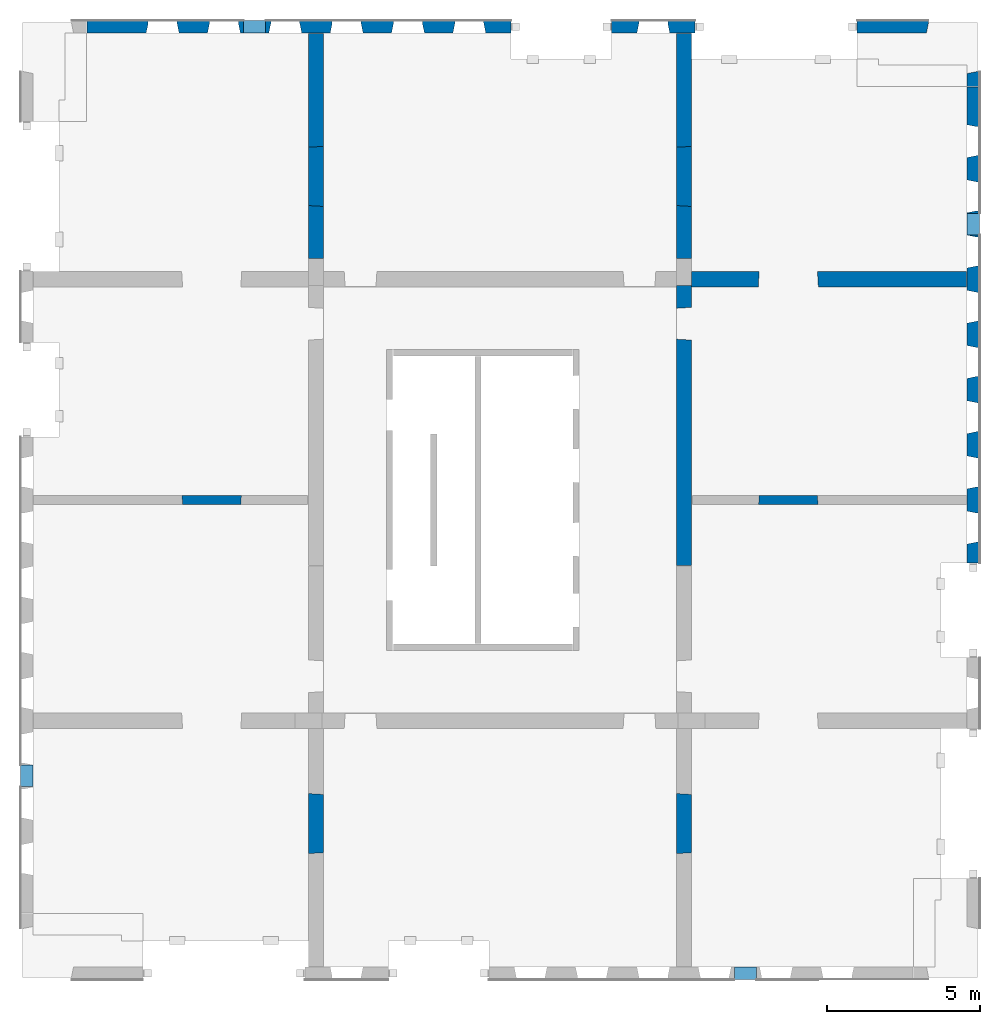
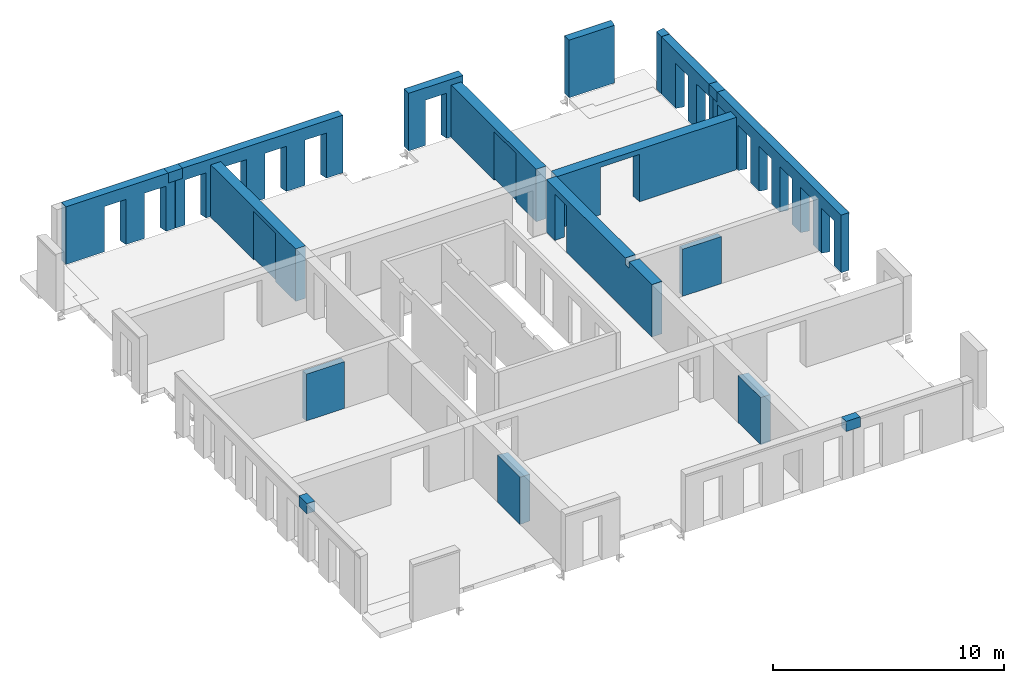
# One storey, part 4 of 5: 21 walls, 26 openings.
"""IFC2X3 building model written with IfcOpenShell, lengths in millimetres."""

from ifc_helpers import new_model, entity, si_unit, converted_unit, derived_unit, direction, frame, frame_2d, origin, place, context, subcontext, project, spatial, polyline, rectangle, extrude, clip, bounded_halfspace, faceted_brep, material, layer, layer_set, layer_usage, type_object, element, save


model = new_model("IFC2X3")

# Units and contexts
model_context = context("Model", 3, precision=0.01, world=origin(), true_north=direction((6.12303176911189e-17, 1.0)))
body_context = subcontext(model_context, "Body", "Model", "MODEL_VIEW")
ifc_project = project(units=[si_unit("LENGTHUNIT", "METRE", prefix="MILLI"), si_unit("AREAUNIT", "SQUARE_METRE"), si_unit("VOLUMEUNIT", "CUBIC_METRE"), converted_unit("PLANEANGLEUNIT", "DEGREE", entity("IfcRatioMeasure", 0.0174532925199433), si_unit("PLANEANGLEUNIT", "RADIAN"), dimensions=[0, 0, 0, 0, 0, 0, 0]), si_unit("MASSUNIT", "GRAM", prefix="KILO"), derived_unit("MASSDENSITYUNIT", [(si_unit("MASSUNIT", "GRAM", prefix="KILO"), 1), (si_unit("LENGTHUNIT", "METRE"), -3)]), si_unit("TIMEUNIT", "SECOND"), si_unit("FREQUENCYUNIT", "HERTZ"), si_unit("THERMODYNAMICTEMPERATUREUNIT", "DEGREE_CELSIUS"), derived_unit("THERMALTRANSMITTANCEUNIT", [(si_unit("MASSUNIT", "GRAM", prefix="KILO"), 1), (si_unit("THERMODYNAMICTEMPERATUREUNIT", "KELVIN"), -1), (si_unit("TIMEUNIT", "SECOND"), -3)]), derived_unit("VOLUMETRICFLOWRATEUNIT", [(si_unit("LENGTHUNIT", "METRE"), 3), (si_unit("TIMEUNIT", "SECOND"), -1)]), si_unit("ELECTRICCURRENTUNIT", "AMPERE"), si_unit("ELECTRICVOLTAGEUNIT", "VOLT"), si_unit("POWERUNIT", "WATT"), si_unit("FORCEUNIT", "NEWTON", prefix="KILO"), si_unit("ILLUMINANCEUNIT", "LUX"), si_unit("LUMINOUSFLUXUNIT", "LUMEN"), si_unit("LUMINOUSINTENSITYUNIT", "CANDELA"), derived_unit("USERDEFINED", [(si_unit("MASSUNIT", "GRAM", prefix="KILO"), -1), (si_unit("LENGTHUNIT", "METRE"), -2), (si_unit("TIMEUNIT", "SECOND"), 3), (si_unit("LUMINOUSFLUXUNIT", "LUMEN"), 1)]), derived_unit("LINEARVELOCITYUNIT", [(si_unit("LENGTHUNIT", "METRE"), 1), (si_unit("TIMEUNIT", "SECOND"), -1)]), si_unit("PRESSUREUNIT", "PASCAL"), derived_unit("USERDEFINED", [(si_unit("LENGTHUNIT", "METRE"), -2), (si_unit("MASSUNIT", "GRAM", prefix="KILO"), 1), (si_unit("TIMEUNIT", "SECOND"), -2)])], contexts=[model_context])

# Site, building, storey
site_placement = place(None, origin())
site = spatial("IfcSite", under=ifc_project, at=site_placement, Name="Default", CompositionType="ELEMENT")
building_placement = place(site_placement, origin())
building = spatial("IfcBuilding", under=site, at=building_placement, Name="niet gebruiken", CompositionType="ELEMENT")
storey_placement = place(building_placement, frame((0.0, 0.0, 24120.0)))
storey = spatial("IfcBuildingStorey", under=building, at=storey_placement, Name="07 zevende verdieping", CompositionType="ELEMENT", Elevation=24120.0)

# Wall, openings
ifc_material_1 = material(Name="NLRS_f2_beton prefab")
ifc_layer_1 = layer(ifc_material_1, 400.0)
ifc_layer_set_1 = layer_set([ifc_layer_1], Name="Basic Wall:NLRS_21.21_WA_beton prefab d=400/420_gen")
ifc_layer_usage_1 = layer_usage(ifc_layer_set_1, "AXIS2", "NEGATIVE", 200.0)
wall_type_1 = type_object("IfcWallType", Name="Basic Wall:NLRS_21.21_WA_beton prefab d=400/420_gen", PredefinedType="STANDARD", material=ifc_layer_set_1)
wall_1_placement = place(storey_placement, frame((128290.0, 32930.0, -50.0)))
wall_1 = element("IfcWallStandardCase", 1, at=wall_1_placement, inside=storey, type_object=wall_type_1, material=ifc_layer_usage_1, Name="Basic Wall:NLRS_21.21_WA_beton prefab d=400/420_gen", ObjectType="Basic Wall:NLRS_21.21_WA_beton prefab d=400/420_gen", context=body_context, shape_type="SweptSolid", body=[
    extrude(rectangle(XDim=5450.00000000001, YDim=399.999999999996, at=frame_2d((2725.0, 5.82645043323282e-13), x_axis=(-1.0, 0.0))), origin(), (0.0, 0.0, 1.0), 3040.0),
])
opening_1_placement = place(wall_1_placement, frame((3925.0, -200.0, -20.0)))
element("IfcOpeningElement", 2, at=opening_1_placement, cuts=wall_1, Name="Basic Wall:NLRS_21.21_WA_beton prefab d=400/420_gen", ObjectType="Opening", context=body_context, shape_type="Brep", body=[
    faceted_brep([(1070.0, 0.0, 2405.0), (0.0, 0.0, 2405.0), (0.0, 0.0, 0.0), (1070.0, 0.0, 0.0), (1005.0, 319.0, 2370.0), (65.0, 319.0, 2370.0), (65.0, 319.0, 0.0), (65.0, 400.0, 0.0), (1005.0, 400.0, 0.0), (1005.0, 319.0, 0.0), (1005.0, 400.0, 2370.0), (65.0, 400.0, 2370.0)], [[[0, 1, 2, 3]], [[1, 0, 4, 5]], [[2, 1, 5, 6]], [[3, 2, 6, 7, 8, 9]], [[0, 3, 9, 4]], [[10, 8, 7, 11]], [[10, 11, 5, 4]], [[11, 7, 6, 5]], [[8, 10, 4, 9]]]),
])
opening_2_placement = place(wall_1_placement, frame((1925.0, -200.0, -20.0)))
element("IfcOpeningElement", 3, at=opening_2_placement, cuts=wall_1, Name="Basic Wall:NLRS_21.21_WA_beton prefab d=400/420_gen", ObjectType="Opening", context=body_context, shape_type="Brep", body=[
    faceted_brep([(1070.0, 0.0, 2405.0), (0.0, 0.0, 2405.0), (0.0, 0.0, 0.0), (1070.0, 0.0, 0.0), (1005.0, 319.0, 2370.0), (65.0, 319.0, 2370.0), (65.0, 319.0, 0.0), (65.0, 400.0, 0.0), (1005.0, 400.0, 0.0), (1005.0, 319.0, 0.0), (1005.0, 400.0, 2370.0), (65.0, 400.0, 2370.0)], [[[0, 1, 2, 3]], [[1, 0, 4, 5]], [[2, 1, 5, 6]], [[3, 2, 6, 7, 8, 9]], [[0, 3, 9, 4]], [[10, 8, 7, 11]], [[10, 11, 5, 4]], [[11, 7, 6, 5]], [[8, 10, 4, 9]]]),
])
opening_3_placement = place(wall_1_placement, origin())
element("IfcOpeningElement", 4, at=opening_3_placement, cuts=wall_1, Name="Basic Wall:NLRS_21.21_WA_beton prefab d=400/420_gen", ObjectType="Opening", context=body_context, shape_type="SweptSolid", body=[
    extrude(rectangle(XDim=535.0, YDim=345.000000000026, at=frame_2d((0.0, 8.66862137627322e-12), x_axis=(1.0, 0.0))), frame((5277.5, 200.0, 2772.5), z_axis=(0.0, -1.0, 0.0), x_axis=(0.0, 0.0, 1.0)), (0.0, 0.0, 1.0), 400.0),
])

# Wall, opening
ifc_layer_usage_2 = layer_usage(ifc_layer_set_1, "AXIS2", "NEGATIVE", 200.0)
wall_2_placement = place(storey_placement, frame((153390.0, 32930.0, -50.0)))
wall_2 = element("IfcWallStandardCase", 5, at=wall_2_placement, inside=storey, type_object=wall_type_1, material=ifc_layer_usage_2, Name="Basic Wall:NLRS_21.21_WA_beton prefab d=400/420_gen", ObjectType="Basic Wall:NLRS_21.21_WA_beton prefab d=400/420_gen", context=body_context, shape_type="SweptSolid", body=[
    extrude(rectangle(XDim=2330.00000000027, YDim=400.000000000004, at=frame_2d((1165.00000000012, 7.38964445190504e-13), x_axis=(-1.0, 0.0))), origin(), (0.0, 0.0, 1.0), 3040.0),
])
opening_4_placement = place(wall_2_placement, frame((2265.0, -200.0, 0.0)))
element("IfcOpeningElement", 6, at=opening_4_placement, cuts=wall_2, Name="Basic Wall:NLRS_21.21_WA_beton prefab d=400/420_gen", ObjectType="Opening", context=body_context, shape_type="Brep", body=[
    faceted_brep([(65.0, 0.0, 3040.0), (65.0, 319.0, 3040.0), (0.0, 0.0, 3040.0), (65.0, 0.0, 0.0), (0.0, 0.0, 0.0), (65.0, 319.0, 0.0)], [[[0, 1, 2]], [[3, 4, 5]], [[2, 4, 3, 0]], [[0, 3, 5, 1]], [[1, 5, 4, 2]]]),
])

ifc_layer_usage_3 = layer_usage(ifc_layer_set_1, "AXIS2", "NEGATIVE", 200.0)
wall_3_placement = place(storey_placement, frame((157180.0, 31470.0, -50.0), z_axis=(0.0, 0.0, 1.0), x_axis=(0.0, -1.0, 0.0)))
wall_3 = element("IfcWallStandardCase", 7, at=wall_3_placement, inside=storey, type_object=wall_type_1, material=ifc_layer_usage_3, Name="Basic Wall:NLRS_21.21_WA_beton prefab d=400/420_gen", ObjectType="Basic Wall:NLRS_21.21_WA_beton prefab d=400/420_gen", context=body_context, shape_type="SweptSolid", body=[
    extrude(rectangle(XDim=490.000000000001, YDim=399.999999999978, at=frame_2d((245.000000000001, -7.21911419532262e-12), x_axis=(-1.0, 0.0))), origin(), (0.0, 0.0, 1.0), 3040.0),
])
opening_5_placement = place(wall_3_placement, frame((65.0, -200.0, 0.0)))
element("IfcOpeningElement", 8, at=opening_5_placement, cuts=wall_3, Name="Basic Wall:NLRS_21.21_WA_beton prefab d=400/420_gen", ObjectType="Opening", context=body_context, shape_type="Brep", body=[
    faceted_brep([(-65.0, 0.0, 3040.0), (0.0, 0.0, 3040.0), (-65.0, 319.0, 3040.0), (-65.0, 0.0, 0.0), (-65.0, 319.0, 0.0), (0.0, 0.0, 0.0)], [[[0, 1, 2]], [[3, 4, 5]], [[1, 0, 3, 5]], [[0, 2, 4, 3]], [[2, 1, 5, 4]]]),
])

ifc_layer_usage_4 = layer_usage(ifc_layer_set_1, "AXIS2", "NEGATIVE", 200.0)
wall_4_placement = place(storey_placement, frame((145390.0, 32930.0, -50.0)))
wall_4 = element("IfcWallStandardCase", 9, at=wall_4_placement, inside=storey, type_object=wall_type_1, material=ifc_layer_usage_4, Name="Basic Wall:NLRS_21.21_WA_beton prefab d=400/420_gen", ObjectType="Basic Wall:NLRS_21.21_WA_beton prefab d=400/420_gen", context=body_context, shape_type="SweptSolid", body=[
    extrude(rectangle(XDim=2720.00000000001, YDim=399.999999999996, at=frame_2d((1360.0, -4.54747350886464e-13), x_axis=(-1.0, 0.0))), origin(), (0.0, 0.0, 1.0), 3040.0),
])
opening_6_placement = place(wall_4_placement, frame((825.0, -200.0, -20.0)))
element("IfcOpeningElement", 10, at=opening_6_placement, cuts=wall_4, Name="Basic Wall:NLRS_21.21_WA_beton prefab d=400/420_gen", ObjectType="Opening", context=body_context, shape_type="Brep", body=[
    faceted_brep([(0.0, 0.0, 2405.0), (0.0, 0.0, 0.0), (1070.0, 0.0, 0.0), (1070.0, 0.0, 2405.0), (1005.0, 319.0, 2370.0), (65.0, 319.0, 2370.0), (1005.0, 319.0, 0.0), (65.0, 319.0, 0.0), (65.0, 400.0, 0.0), (1005.0, 400.0, 0.0), (65.0, 400.0, 2370.0), (1005.0, 400.0, 2370.0)], [[[0, 1, 2, 3]], [[3, 4, 5, 0]], [[2, 6, 4, 3]], [[1, 7, 8, 9, 6, 2]], [[0, 5, 7, 1]], [[10, 11, 9, 8]], [[10, 5, 4, 11]], [[11, 4, 6, 9]], [[8, 7, 5, 10]]]),
])

# Wall, openings
ifc_layer_usage_5 = layer_usage(ifc_layer_set_1, "AXIS2", "NEGATIVE", 200.0)
wall_5_placement = place(storey_placement, frame((133760.0, 32930.0, -50.0)))
wall_5 = element("IfcWallStandardCase", 11, at=wall_5_placement, inside=storey, type_object=wall_type_1, material=ifc_layer_usage_5, Name="Basic Wall:NLRS_21.21_WA_beton prefab d=400/420_gen", ObjectType="Basic Wall:NLRS_21.21_WA_beton prefab d=400/420_gen", context=body_context, shape_type="SweptSolid", body=[
    extrude(rectangle(XDim=8350.00000000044, YDim=399.999999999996, at=frame_2d((4175.00000000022, 1.406874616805e-12), x_axis=(-1.0, 0.0))), origin(), (0.0, 0.0, 1.0), 3040.0),
])
opening_7_placement = place(wall_5_placement, frame((6455.0, -200.0, -20.0)))
element("IfcOpeningElement", 12, at=opening_7_placement, cuts=wall_5, Name="Basic Wall:NLRS_21.21_WA_beton prefab d=400/420_gen", ObjectType="Opening", context=body_context, shape_type="Brep", body=[
    faceted_brep([(1070.0, 0.0, 2405.0), (0.0, 0.0, 2405.0), (0.0, 0.0, 0.0), (1070.0, 0.0, 0.0), (1005.0, 319.0, 2370.0), (65.0, 319.0, 2370.0), (65.0, 319.0, 0.0), (65.0, 400.0, 0.0), (1005.0, 400.0, 0.0), (1005.0, 319.0, 0.0), (1005.0, 400.0, 2370.0), (65.0, 400.0, 2370.0)], [[[0, 1, 2, 3]], [[1, 0, 4, 5]], [[2, 1, 5, 6]], [[3, 2, 6, 7, 8, 9]], [[0, 3, 9, 4]], [[10, 8, 7, 11]], [[10, 11, 5, 4]], [[11, 7, 6, 5]], [[8, 10, 4, 9]]]),
])
opening_8_placement = place(wall_5_placement, frame((4455.0, -200.0, -20.0)))
element("IfcOpeningElement", 13, at=opening_8_placement, cuts=wall_5, Name="Basic Wall:NLRS_21.21_WA_beton prefab d=400/420_gen", ObjectType="Opening", context=body_context, shape_type="Brep", body=[
    faceted_brep([(1070.0, 0.0, 2405.0), (0.0, 0.0, 2405.0), (0.0, 0.0, 0.0), (1070.0, 0.0, 0.0), (1005.0, 319.0, 2370.0), (65.0, 319.0, 2370.0), (65.0, 319.0, 0.0), (65.0, 400.0, 0.0), (1005.0, 400.0, 0.0), (1005.0, 319.0, 0.0), (1005.0, 400.0, 2370.0), (65.0, 400.0, 2370.0)], [[[0, 1, 2, 3]], [[1, 0, 4, 5]], [[2, 1, 5, 6]], [[3, 2, 6, 7, 8, 9]], [[0, 3, 9, 4]], [[10, 8, 7, 11]], [[10, 11, 5, 4]], [[11, 7, 6, 5]], [[8, 10, 4, 9]]]),
])
opening_9_placement = place(wall_5_placement, frame((455.0, -200.0, -20.0)))
element("IfcOpeningElement", 14, at=opening_9_placement, cuts=wall_5, Name="Basic Wall:NLRS_21.21_WA_beton prefab d=400/420_gen", ObjectType="Opening", context=body_context, shape_type="Brep", body=[
    faceted_brep([(1070.0, 0.0, 2405.0), (0.0, 0.0, 2405.0), (0.0, 0.0, 0.0), (1070.0, 0.0, 0.0), (1005.0, 319.0, 2370.0), (65.0, 319.0, 2370.0), (65.0, 319.0, 0.0), (65.0, 400.0, 0.0), (1005.0, 400.0, 0.0), (1005.0, 319.0, 0.0), (1005.0, 400.0, 2370.0), (65.0, 400.0, 2370.0)], [[[0, 1, 2, 3]], [[1, 0, 4, 5]], [[2, 1, 5, 6]], [[3, 2, 6, 7, 8, 9]], [[0, 3, 9, 4]], [[10, 8, 7, 11]], [[10, 11, 5, 4]], [[11, 7, 6, 5]], [[8, 10, 4, 9]]]),
])
opening_10_placement = place(wall_5_placement, frame((2455.0, -200.0, -20.0)))
element("IfcOpeningElement", 15, at=opening_10_placement, cuts=wall_5, Name="Basic Wall:NLRS_21.21_WA_beton prefab d=400/420_gen", ObjectType="Opening", context=body_context, shape_type="Brep", body=[
    faceted_brep([(1070.0, 0.0, 2405.0), (0.0, 0.0, 2405.0), (0.0, 0.0, 0.0), (1070.0, 0.0, 0.0), (1005.0, 319.0, 2370.0), (65.0, 319.0, 2370.0), (65.0, 319.0, 0.0), (65.0, 400.0, 0.0), (1005.0, 400.0, 0.0), (1005.0, 319.0, 0.0), (1005.0, 400.0, 2370.0), (65.0, 400.0, 2370.0)], [[[0, 1, 2, 3]], [[1, 0, 4, 5]], [[2, 1, 5, 6]], [[3, 2, 6, 7, 8, 9]], [[0, 3, 9, 4]], [[10, 8, 7, 11]], [[10, 11, 5, 4]], [[11, 7, 6, 5]], [[8, 10, 4, 9]]]),
])
opening_11_placement = place(wall_5_placement, origin())
element("IfcOpeningElement", 16, at=opening_11_placement, cuts=wall_5, Name="Basic Wall:NLRS_21.21_WA_beton prefab d=400/420_gen", ObjectType="Opening", context=body_context, shape_type="SweptSolid", body=[
    extrude(rectangle(XDim=535.0, YDim=344.999999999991, at=frame_2d((8.65441052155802e-12, 0.0), x_axis=(0.0, 1.0))), frame((172.499999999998, 200.0, 2772.5), z_axis=(0.0, -1.0, 0.0), x_axis=(-1.0, 0.0, 0.0)), (0.0, 0.0, 1.0), 400.0),
])

ifc_layer_usage_6 = layer_usage(ifc_layer_set_1, "AXIS2", "NEGATIVE", 200.0)
wall_6_placement = place(storey_placement, frame((157180.0, 30960.0, -50.0), z_axis=(0.0, 0.0, 1.0), x_axis=(0.0, -1.0, 0.0)))
wall_6 = element("IfcWallStandardCase", 17, at=wall_6_placement, inside=storey, type_object=wall_type_1, material=ifc_layer_usage_6, Name="Basic Wall:NLRS_21.21_WA_beton prefab d=400/420_gen", ObjectType="Basic Wall:NLRS_21.21_WA_beton prefab d=400/420_gen", context=body_context, shape_type="SweptSolid", body=[
    extrude(rectangle(XDim=4460.00000000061, YDim=399.999999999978, at=frame_2d((2230.00000000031, -2.44426701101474e-12), x_axis=(-1.0, 0.0))), origin(), (0.0, 0.0, 1.0), 3040.0),
])
opening_12_placement = place(wall_6_placement, frame((2295.0, -200.0, -20.0)))
element("IfcOpeningElement", 18, at=opening_12_placement, cuts=wall_6, Name="Basic Wall:NLRS_21.21_WA_beton prefab d=400/420_gen", ObjectType="Opening", context=body_context, shape_type="Brep", body=[
    faceted_brep([(-1070.0, 0.0, 2405.0), (-1070.0, 0.0, 0.0), (0.0, 0.0, 0.0), (0.0, 0.0, 2405.0), (-65.0, 319.0, 2370.0), (-1005.0, 319.0, 2370.0), (-65.0, 319.0, 0.0), (-1005.0, 319.0, 0.0), (-1005.0, 400.0, 0.0), (-65.0, 400.0, 0.0), (-1005.0, 400.0, 2370.0), (-65.0, 400.0, 2370.0)], [[[0, 1, 2, 3]], [[3, 4, 5, 0]], [[2, 6, 4, 3]], [[1, 7, 8, 9, 6, 2]], [[0, 5, 7, 1]], [[10, 11, 9, 8]], [[10, 5, 4, 11]], [[11, 4, 6, 9]], [[8, 7, 5, 10]]]),
])
opening_13_placement = place(wall_6_placement, frame((4095.0, -200.0, -20.0)))
element("IfcOpeningElement", 19, at=opening_13_placement, cuts=wall_6, Name="Basic Wall:NLRS_21.21_WA_beton prefab d=400/420_gen", ObjectType="Opening", context=body_context, shape_type="Brep", body=[
    faceted_brep([(-1070.0, 0.0, 2405.0), (-1070.0, 0.0, 0.0), (0.0, 0.0, 0.0), (0.0, 0.0, 2405.0), (-65.0, 319.0, 2370.0), (-1005.0, 319.0, 2370.0), (-65.0, 319.0, 0.0), (-1005.0, 319.0, 0.0), (-1005.0, 400.0, 0.0), (-65.0, 400.0, 0.0), (-1005.0, 400.0, 2370.0), (-65.0, 400.0, 2370.0)], [[[0, 1, 2, 3]], [[3, 4, 5, 0]], [[2, 6, 4, 3]], [[1, 7, 8, 9, 6, 2]], [[0, 5, 7, 1]], [[10, 11, 9, 8]], [[10, 5, 4, 11]], [[11, 4, 6, 9]], [[8, 7, 5, 10]]]),
])
opening_14_placement = place(wall_6_placement, origin())
element("IfcOpeningElement", 20, at=opening_14_placement, cuts=wall_6, Name="Basic Wall:NLRS_21.21_WA_beton prefab d=400/420_gen", ObjectType="Opening", context=body_context, shape_type="SweptSolid", body=[
    extrude(rectangle(XDim=535.0, YDim=345.00000000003, at=frame_2d((0.0, -2.1600499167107e-12), x_axis=(1.0, 0.0))), frame((4287.5000000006, 200.0, 2772.5), z_axis=(0.0, -1.0, 0.0), x_axis=(0.0, 0.0, 1.0)), (0.0, 0.0, 1.0), 400.0),
])

ifc_layer_usage_7 = layer_usage(ifc_layer_set_1, "AXIS2", "NEGATIVE", 200.0)
wall_7_placement = place(storey_placement, frame((157180.0, 26490.0, -50.0), z_axis=(0.0, 0.0, 1.0), x_axis=(0.0, -1.0, 0.0)))
wall_7 = element("IfcWallStandardCase", 21, at=wall_7_placement, inside=storey, type_object=wall_type_1, material=ifc_layer_usage_7, Name="Basic Wall:NLRS_21.21_WA_beton prefab d=400/420_gen", ObjectType="Basic Wall:NLRS_21.21_WA_beton prefab d=400/420_gen", context=body_context, shape_type="SweptSolid", body=[
    extrude(rectangle(XDim=11050.0000000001, YDim=399.999999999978, at=frame_2d((5525.00000000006, 6.73594513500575e-12), x_axis=(-1.0, 0.0))), origin(), (0.0, 0.0, 1.0), 3040.0),
])
opening_15_placement = place(wall_7_placement, frame((10425.0, -200.0, -20.0)))
element("IfcOpeningElement", 22, at=opening_15_placement, cuts=wall_7, Name="Basic Wall:NLRS_21.21_WA_beton prefab d=400/420_gen", ObjectType="Opening", context=body_context, shape_type="Brep", body=[
    faceted_brep([(-1070.0, 0.0, 2405.0), (-1070.0, 0.0, 0.0), (0.0, 0.0, 0.0), (0.0, 0.0, 2405.0), (-65.0, 319.0, 2370.0), (-1005.0, 319.0, 2370.0), (-65.0, 319.0, 0.0), (-1005.0, 319.0, 0.0), (-1005.0, 400.0, 0.0), (-65.0, 400.0, 0.0), (-1005.0, 400.0, 2370.0), (-65.0, 400.0, 2370.0)], [[[0, 1, 2, 3]], [[3, 4, 5, 0]], [[2, 6, 4, 3]], [[1, 7, 8, 9, 6, 2]], [[0, 5, 7, 1]], [[10, 11, 9, 8]], [[10, 5, 4, 11]], [[11, 4, 6, 9]], [[8, 7, 5, 10]]]),
])
opening_16_placement = place(wall_7_placement, frame((6825.0, -200.0, -20.0)))
element("IfcOpeningElement", 23, at=opening_16_placement, cuts=wall_7, Name="Basic Wall:NLRS_21.21_WA_beton prefab d=400/420_gen", ObjectType="Opening", context=body_context, shape_type="Brep", body=[
    faceted_brep([(-1070.0, 0.0, 2405.0), (-1070.0, 0.0, 0.0), (0.0, 0.0, 0.0), (0.0, 0.0, 2405.0), (-65.0, 319.0, 2370.0), (-1005.0, 319.0, 2370.0), (-65.0, 319.0, 0.0), (-1005.0, 319.0, 0.0), (-1005.0, 400.0, 0.0), (-65.0, 400.0, 0.0), (-1005.0, 400.0, 2370.0), (-65.0, 400.0, 2370.0)], [[[0, 1, 2, 3]], [[3, 4, 5, 0]], [[2, 6, 4, 3]], [[1, 7, 8, 9, 6, 2]], [[0, 5, 7, 1]], [[10, 11, 9, 8]], [[10, 5, 4, 11]], [[11, 4, 6, 9]], [[8, 7, 5, 10]]]),
])
opening_17_placement = place(wall_7_placement, frame((5025.0, -200.0, -20.0)))
element("IfcOpeningElement", 24, at=opening_17_placement, cuts=wall_7, Name="Basic Wall:NLRS_21.21_WA_beton prefab d=400/420_gen", ObjectType="Opening", context=body_context, shape_type="Brep", body=[
    faceted_brep([(-1070.0, 0.0, 2405.0), (-1070.0, 0.0, 0.0), (0.0, 0.0, 0.0), (0.0, 0.0, 2405.0), (-65.0, 319.0, 2370.0), (-1005.0, 319.0, 2370.0), (-65.0, 319.0, 0.0), (-1005.0, 319.0, 0.0), (-1005.0, 400.0, 0.0), (-65.0, 400.0, 0.0), (-1005.0, 400.0, 2370.0), (-65.0, 400.0, 2370.0)], [[[0, 1, 2, 3]], [[3, 4, 5, 0]], [[2, 6, 4, 3]], [[1, 7, 8, 9, 6, 2]], [[0, 5, 7, 1]], [[10, 11, 9, 8]], [[10, 5, 4, 11]], [[11, 4, 6, 9]], [[8, 7, 5, 10]]]),
])
opening_18_placement = place(wall_7_placement, frame((8625.0, -200.0, -20.0)))
element("IfcOpeningElement", 25, at=opening_18_placement, cuts=wall_7, Name="Basic Wall:NLRS_21.21_WA_beton prefab d=400/420_gen", ObjectType="Opening", context=body_context, shape_type="Brep", body=[
    faceted_brep([(-1070.0, 0.0, 2405.0), (-1070.0, 0.0, 0.0), (0.0, 0.0, 0.0), (0.0, 0.0, 2405.0), (-65.0, 319.0, 2370.0), (-1005.0, 319.0, 2370.0), (-65.0, 319.0, 0.0), (-1005.0, 319.0, 0.0), (-1005.0, 400.0, 0.0), (-65.0, 400.0, 0.0), (-1005.0, 400.0, 2370.0), (-65.0, 400.0, 2370.0)], [[[0, 1, 2, 3]], [[3, 4, 5, 0]], [[2, 6, 4, 3]], [[1, 7, 8, 9, 6, 2]], [[0, 5, 7, 1]], [[10, 11, 9, 8]], [[10, 5, 4, 11]], [[11, 4, 6, 9]], [[8, 7, 5, 10]]]),
])
opening_19_placement = place(wall_7_placement, frame((3225.0, -200.0, -20.0)))
element("IfcOpeningElement", 26, at=opening_19_placement, cuts=wall_7, Name="Basic Wall:NLRS_21.21_WA_beton prefab d=400/420_gen", ObjectType="Opening", context=body_context, shape_type="Brep", body=[
    faceted_brep([(0.0, 0.0, 2405.0), (-1070.0, 0.0, 2405.0), (-1070.0, 0.0, 0.0), (0.0, 0.0, 0.0), (-65.0, 319.0, 2370.0), (-1005.0, 319.0, 2370.0), (-1005.0, 319.0, 0.0), (-1005.0, 400.0, 0.0), (-65.0, 400.0, 0.0), (-65.0, 319.0, 0.0), (-65.0, 400.0, 2370.0), (-1005.0, 400.0, 2370.0)], [[[0, 1, 2, 3]], [[1, 0, 4, 5]], [[2, 1, 5, 6]], [[3, 2, 6, 7, 8, 9]], [[0, 3, 9, 4]], [[10, 8, 7, 11]], [[10, 11, 5, 4]], [[11, 7, 6, 5]], [[8, 10, 4, 9]]]),
])
opening_20_placement = place(wall_7_placement, frame((1425.0, -200.0, -20.0)))
element("IfcOpeningElement", 27, at=opening_20_placement, cuts=wall_7, Name="Basic Wall:NLRS_21.21_WA_beton prefab d=400/420_gen", ObjectType="Opening", context=body_context, shape_type="Brep", body=[
    faceted_brep([(0.0, 0.0, 2405.0), (-1070.0, 0.0, 2405.0), (-1070.0, 0.0, 0.0), (0.0, 0.0, 0.0), (-65.0, 319.0, 2370.0), (-1005.0, 319.0, 2370.0), (-1005.0, 319.0, 0.0), (-1005.0, 400.0, 0.0), (-65.0, 400.0, 0.0), (-65.0, 319.0, 0.0), (-65.0, 400.0, 2370.0), (-1005.0, 400.0, 2370.0)], [[[0, 1, 2, 3]], [[1, 0, 4, 5]], [[2, 1, 5, 6]], [[3, 2, 6, 7, 8, 9]], [[0, 3, 9, 4]], [[10, 8, 7, 11]], [[10, 11, 5, 4]], [[11, 7, 6, 5]], [[8, 10, 4, 9]]]),
])
opening_21_placement = place(wall_7_placement, origin())
element("IfcOpeningElement", 28, at=opening_21_placement, cuts=wall_7, Name="Basic Wall:NLRS_21.21_WA_beton prefab d=400/420_gen", ObjectType="Opening", context=body_context, shape_type="SweptSolid", body=[
    extrude(rectangle(XDim=535.0, YDim=344.999999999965, at=frame_2d((0.0, 0.0), x_axis=(0.0, 1.0))), frame((172.499999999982, 200.0, 2772.5), z_axis=(0.0, -1.0, 0.0), x_axis=(-1.0, 0.0, 0.0)), (0.0, 0.0, 1.0), 400.0),
])

# Wall, opening
ifc_layer_2 = layer(ifc_material_1, 500.0)
ifc_layer_set_2 = layer_set([ifc_layer_2], Name="Basic Wall:NLRS_22.21_WA_beton prefab d=500_gen")
ifc_layer_usage_8 = layer_usage(ifc_layer_set_2, "AXIS2", "NEGATIVE", 250.0)
wall_type_2 = type_object("IfcWallType", Name="Basic Wall:NLRS_22.21_WA_beton prefab d=500_gen", PredefinedType="STANDARD", material=ifc_layer_set_2)
wall_8_placement = place(storey_placement, frame((156960.0, 24700.0, -70.0), z_axis=(0.0, 0.0, 1.0), x_axis=(-1.0, 0.0, 0.0)))
wall_8 = element("IfcWallStandardCase", 29, at=wall_8_placement, inside=storey, type_object=wall_type_2, material=ifc_layer_usage_8, Name="Basic Wall:NLRS_22.21_WA_beton prefab d=500_gen", ObjectType="Basic Wall:NLRS_22.21_WA_beton prefab d=500_gen", context=body_context, shape_type="SweptSolid", body=[
    extrude(rectangle(XDim=8959.99999999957, YDim=499.999999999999, at=frame_2d((4479.99999999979, -1.27897692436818e-12), x_axis=(-1.0, 0.0))), origin(), (0.0, 0.0, 1.0), 2770.0),
])
opening_22_placement = place(wall_8_placement, frame((6790.0, 250.0, 0.0)))
element("IfcOpeningElement", 30, at=opening_22_placement, cuts=wall_8, Name="Basic Wall:NLRS_22.21_WA_beton prefab d=500_gen", ObjectType="Opening", context=body_context, shape_type="Brep", body=[
    faceted_brep([(-30.0, -500.0, 2470.0), (-1930.0, -500.0, 2470.0), (-1930.0, -500.0, 0.0), (-30.0, -500.0, 0.0), (0.0, 0.0, 2500.0), (0.0, 0.0, 0.0), (-1960.0, 0.0, 0.0), (-1960.0, 0.0, 2500.0)], [[[0, 1, 2, 3]], [[4, 5, 6, 7]], [[4, 7, 1, 0]], [[7, 6, 2, 1]], [[6, 5, 3, 2]], [[5, 4, 0, 3]]]),
])

ifc_layer_usage_9 = layer_usage(ifc_layer_set_2, "AXIS2", "NEGATIVE", 250.0)
wall_9_placement = place(storey_placement, frame((135750.0, 25380.0, -70.0), z_axis=(0.0, 0.0, 1.0), x_axis=(0.0, 1.0, 0.0)))
wall_9 = element("IfcWallStandardCase", 31, at=wall_9_placement, inside=storey, type_object=wall_type_2, material=ifc_layer_usage_9, Name="Basic Wall:NLRS_22.21_WA_beton prefab d=500_gen", ObjectType="Basic Wall:NLRS_22.21_WA_beton prefab d=500_gen", context=body_context, shape_type="Clipping", body=[
    clip(extrude(rectangle(XDim=7329.99999999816, YDim=499.99999999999, at=frame_2d((3664.99999999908, -3.83693077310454e-12), x_axis=(-1.0, 0.0))), origin(), (0.0, 0.0, 1.0), 2770.0), bounded_halfspace(frame((1690.0, -250.0, 2590.0), z_axis=(0.0, 0.0598922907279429, 0.998204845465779), x_axis=(-1.0, 0.0, 0.0)), True, frame((1690.0, -250.0, 2590.0), z_axis=(0.0, 0.0598922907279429, 0.998204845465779), x_axis=(-1.0, 0.0, 0.0)), polyline([(0.0, 0.0), (-1960.0, 0.0), (-1930.0, -500.899191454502), (-30.0, -500.899191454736), (0.0, 0.0)]))),
])
opening_23_placement = place(wall_9_placement, frame((1690.0, 250.0, 0.0)))
element("IfcOpeningElement", 32, at=opening_23_placement, cuts=wall_9, Name="Basic Wall:NLRS_22.21_WA_beton prefab d=500_gen", ObjectType="Opening", context=body_context, shape_type="Brep", body=[
    faceted_brep([(1930.0, 0.0, 2470.0), (1930.0, 0.0, 0.0), (30.0, 0.0, 0.0), (30.0, 0.0, 2470.0), (1960.0, -500.0, 2500.0), (0.0, -500.0, 2500.0), (0.0, -500.0, 0.0), (1960.0, -500.0, 0.0)], [[[0, 1, 2, 3]], [[4, 5, 6, 7]], [[4, 0, 3, 5]], [[5, 3, 2, 6]], [[6, 2, 1, 7]], [[7, 1, 0, 4]]]),
])

ifc_layer_usage_10 = layer_usage(ifc_layer_set_2, "AXIS2", "NEGATIVE", 250.0)
wall_10_placement = place(storey_placement, frame((147750.0, 25380.0, -70.0), z_axis=(0.0, 0.0, 1.0), x_axis=(0.0, 1.0, 0.0)))
wall_10 = element("IfcWallStandardCase", 33, at=wall_10_placement, inside=storey, type_object=wall_type_2, material=ifc_layer_usage_10, Name="Basic Wall:NLRS_22.21_WA_beton prefab d=500_gen", ObjectType="Basic Wall:NLRS_22.21_WA_beton prefab d=500_gen", context=body_context, shape_type="Clipping", body=[
    clip(extrude(rectangle(XDim=7329.999999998, YDim=499.99999999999, at=frame_2d((3664.999999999, 1.10844666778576e-12), x_axis=(-1.0, 0.0))), origin(), (0.0, 0.0, 1.0), 2770.0), bounded_halfspace(frame((1690.0, -250.0, 2590.0), z_axis=(0.0, 0.0598922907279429, 0.998204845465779), x_axis=(-1.0, 0.0, 0.0)), True, frame((1690.0, -250.0, 2590.0), z_axis=(0.0, 0.0598922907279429, 0.998204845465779), x_axis=(-1.0, 0.0, 0.0)), polyline([(0.0, 0.0), (-1960.0, 0.0), (-1930.0, -500.89919145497), (-30.0, -500.899191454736), (0.0, 0.0)]))),
])
opening_24_placement = place(wall_10_placement, frame((1690.0, 250.0, 0.0)))
element("IfcOpeningElement", 34, at=opening_24_placement, cuts=wall_10, Name="Basic Wall:NLRS_22.21_WA_beton prefab d=500_gen", ObjectType="Opening", context=body_context, shape_type="Brep", body=[
    faceted_brep([(1930.0, 0.0, 2470.0), (1930.0, 0.0, 0.0), (30.0, 0.0, 0.0), (30.0, 0.0, 2470.0), (1960.0, -500.0, 2500.0), (0.0, -500.0, 2500.0), (0.0, -500.0, 0.0), (1960.0, -500.0, 0.0)], [[[0, 1, 2, 3]], [[4, 5, 6, 7]], [[4, 0, 3, 5]], [[5, 3, 2, 6]], [[6, 2, 1, 7]], [[7, 1, 0, 4]]]),
])

# Wall, openings
ifc_layer_usage_11 = layer_usage(ifc_layer_set_2, "AXIS2", "NEGATIVE", 250.0)
wall_11_placement = place(storey_placement, frame((147750.0, 24500.0, -70.0), z_axis=(0.0, 0.0, 1.0), x_axis=(0.0, -1.0, 0.0)))
wall_11 = element("IfcWallStandardCase", 35, at=wall_11_placement, inside=storey, type_object=wall_type_2, material=ifc_layer_usage_11, Name="Basic Wall:NLRS_22.21_WA_beton prefab d=500_gen", ObjectType="Basic Wall:NLRS_22.21_WA_beton prefab d=500_gen", context=body_context, shape_type="SweptSolid", body=[
    extrude(rectangle(XDim=9140.00000000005, YDim=499.99999999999, at=frame_2d((4570.00000000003, -1.4210854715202e-14), x_axis=(-1.0, 0.0))), origin(), (0.0, 0.0, 1.0), 2770.00000000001),
])
opening_25_placement = place(wall_11_placement, frame((1786.0, -250.0, 0.0)))
element("IfcOpeningElement", 36, at=opening_25_placement, cuts=wall_11, Name="Basic Wall:NLRS_22.21_WA_beton prefab d=500_gen", ObjectType="Opening", context=body_context, shape_type="Brep", body=[
    faceted_brep([(-1066.0, 500.0, 2478.0), (-1066.0, 500.0, 0.0), (-1036.0, 0.0, 0.0), (-1036.0, 0.0, 2448.0), (0.0, 500.0, 0.0), (-30.0, 0.0, 0.0), (-30.0, 0.0, 2448.0), (0.0, 500.0, 2478.0)], [[[0, 1, 2, 3]], [[1, 4, 5, 2]], [[6, 3, 2, 5]], [[7, 4, 1, 0]], [[7, 0, 3, 6]], [[4, 7, 6, 5]]]),
])
opening_26_placement = place(wall_11_placement, origin())
element("IfcOpeningElement", 37, at=opening_26_placement, cuts=wall_11, Name="Basic Wall:NLRS_22.21_WA_beton prefab d=500_gen", ObjectType="Opening", context=body_context, shape_type="SweptSolid", body=[
    extrude(rectangle(XDim=350.000000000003, YDim=339.999999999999, at=frame_2d((-1.08002495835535e-12, -2.1600499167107e-12), x_axis=(0.0, 1.0))), frame((7000.0, 250.0, 2595.0), z_axis=(0.0, -1.0, 0.0), x_axis=(-1.0, 0.0, 0.0)), (0.0, 0.0, 1.0), 500.0),
])

# Walls
ifc_material_2 = material(Name="NLRS_f2_beton prefab dichtstorten")
wall_type_3 = type_object("IfcWallType", Name="Parametric Wall:NLRS_22.21_WA_beton prefab d=500 1900x2470_gen", PredefinedType="NOTDEFINED", material=ifc_material_2)
wall_12_placement = place(storey_placement, frame((135500.0, 5970.0, -70.0), z_axis=(0.0, 0.0, 1.0), x_axis=(0.0, 1.0, 0.0)))
element("IfcWall", 38, at=wall_12_placement, inside=storey, type_object=wall_type_3, material=ifc_material_2, Name="Parametric Wall:NLRS_22.21_WA_beton prefab d=500 1900x2470_gen", ObjectType="Parametric Wall:NLRS_22.21_WA_beton prefab d=500 1900x2470_gen", context=body_context, shape_type="Brep", body=[
    faceted_brep([(1960.0, 0.0, 2500.0), (1960.0, 0.0, 0.0), (0.0, 0.0, 0.0), (0.0, 0.0, 2500.0), (1930.0, -500.0, 2470.0), (30.0, -500.0, 2470.0), (30.0, -500.0, 0.0), (1930.0, -500.0, 0.0)], [[[0, 1, 2, 3]], [[4, 5, 6, 7]], [[4, 7, 1, 0]], [[7, 6, 2, 1]], [[6, 5, 3, 2]], [[5, 4, 0, 3]]]),
])
for number, where, z_axis, x_axis in (
    (39, (147500.0, 27070.0, 20.0), (0.0, 0.0, 1.0), (0.0, 1.0, 0.0)),
    (40, (135500.0, 27070.0, 20.0), (0.0, 0.0, 1.0), (0.0, 1.0, 0.0)),
):
    element("IfcWall", number, at=place(storey_placement, frame(where, z_axis=z_axis, x_axis=x_axis)), inside=storey, type_object=wall_type_3, material=ifc_material_2, Name="Parametric Wall:NLRS_22.21_WA_beton prefab d=500 1900x2470_gen", ObjectType="Parametric Wall:NLRS_22.21_WA_beton prefab d=500 1900x2470_gen", context=body_context, shape_type="Brep", body=[
        faceted_brep([(0.0, -500.0, 2500.0), (0.0, -500.0, 0.0), (1960.0, -500.0, 0.0), (1960.0, -500.0, 2500.0), (30.0, 0.0, 2470.0), (1930.0, 0.0, 2470.0), (1930.0, 0.0, 0.0), (30.0, 0.0, 0.0)], [[[0, 1, 2, 3]], [[4, 5, 6, 7]], [[4, 7, 1, 0]], [[7, 6, 2, 1]], [[6, 5, 3, 2]], [[5, 4, 0, 3]]]),
    ])
wall_13_placement = place(storey_placement, frame((147500.0, 5970.0, -70.0), z_axis=(0.0, 0.0, 1.0), x_axis=(0.0, 1.0, 0.0)))
element("IfcWall", 41, at=wall_13_placement, inside=storey, type_object=wall_type_3, material=ifc_material_2, Name="Parametric Wall:NLRS_22.21_WA_beton prefab d=500 1900x2470_gen", ObjectType="Parametric Wall:NLRS_22.21_WA_beton prefab d=500 1900x2470_gen", context=body_context, shape_type="Brep", body=[
    faceted_brep([(1960.0, 0.0, 2500.0), (1960.0, 0.0, 0.0), (0.0, 0.0, 0.0), (0.0, 0.0, 2500.0), (1930.0, -500.0, 2470.0), (30.0, -500.0, 2470.0), (30.0, -500.0, 0.0), (1930.0, -500.0, 0.0)], [[[0, 1, 2, 3]], [[4, 5, 6, 7]], [[4, 7, 1, 0]], [[7, 6, 2, 1]], [[6, 5, 3, 2]], [[5, 4, 0, 3]]]),
])
wall_14_placement = place(storey_placement, frame((131382.0, 17350.0, -70.0)))
element("IfcWall", 42, at=wall_14_placement, inside=storey, type_object=wall_type_3, material=ifc_material_2, Name="Parametric Wall:NLRS_22.21_WA_beton prefab d=500 1900x2470_gen", ObjectType="Parametric Wall:NLRS_22.21_WA_beton prefab d=500 1900x2470_gen", context=body_context, shape_type="Brep", body=[
    faceted_brep([(1936.0, 300.0, 2488.0), (1936.0, 300.0, 0.0), (0.0, 300.0, 0.0), (0.0, 300.0, 2488.0), (1918.0, 0.0, 2470.0), (18.0, 0.0, 2470.0), (18.0, 0.0, 0.0), (1918.0, 0.0, 0.0)], [[[0, 1, 2, 3]], [[4, 5, 6, 7]], [[4, 7, 1, 0]], [[7, 6, 2, 1]], [[6, 5, 3, 2]], [[5, 4, 0, 3]]]),
])
wall_15_placement = place(storey_placement, frame((150182.0, 17350.0, -70.0)))
element("IfcWall", 43, at=wall_15_placement, inside=storey, type_object=wall_type_3, material=ifc_material_2, Name="Parametric Wall:NLRS_22.21_WA_beton prefab d=500 1900x2470_gen", ObjectType="Parametric Wall:NLRS_22.21_WA_beton prefab d=500 1900x2470_gen", context=body_context, shape_type="Brep", body=[
    faceted_brep([(0.0, 0.0, 2488.0), (0.0, 0.0, 0.0), (1936.0, 0.0, 0.0), (1936.0, 0.0, 2488.0), (18.0, 300.0, 2470.0), (1918.0, 300.0, 2470.0), (1918.0, 300.0, 0.0), (18.0, 300.0, 0.0)], [[[0, 1, 2, 3]], [[4, 5, 6, 7]], [[4, 7, 1, 0]], [[7, 6, 2, 1]], [[6, 5, 3, 2]], [[5, 4, 0, 3]]]),
])
ifc_material_3 = material(Name="NLRS_f2_beton ihwg")
ifc_layer_3 = layer(ifc_material_3, 400.0)
ifc_layer_set_3 = layer_set([ifc_layer_3], Name="Basic Wall:NLRS_21.21_WA_beton ihwg d=400_gen")
ifc_layer_usage_12 = layer_usage(ifc_layer_set_3, "AXIS2", "NEGATIVE", 200.0)
wall_type_4 = type_object("IfcWallType", Name="Basic Wall:NLRS_21.21_WA_beton ihwg d=400_gen", PredefinedType="STANDARD", material=ifc_layer_set_3)
wall_16_placement = place(storey_placement, frame((133395.0, 32930.0, 2455.0)))
element("IfcWallStandardCase", 44, at=wall_16_placement, inside=storey, type_object=wall_type_4, material=ifc_layer_usage_12, Name="Basic Wall:NLRS_21.21_WA_beton ihwg d=400_gen", ObjectType="Basic Wall:NLRS_21.21_WA_beton ihwg d=400_gen", context=body_context, shape_type="SweptSolid", body=[
    extrude(rectangle(XDim=710.000000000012, YDim=399.999999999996, at=frame_2d((355.000000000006, 0.0), x_axis=(-1.0, 0.0))), origin(), (0.0, 0.0, 1.0), 535.0),
])
ifc_layer_usage_13 = layer_usage(ifc_layer_set_3, "AXIS2", "NEGATIVE", 200.0)
wall_17_placement = place(storey_placement, frame((150105.0, 2070.0, 2455.0), z_axis=(0.0, 0.0, 1.0), x_axis=(-1.0, 0.0, 0.0)))
element("IfcWallStandardCase", 45, at=wall_17_placement, inside=storey, type_object=wall_type_4, material=ifc_layer_usage_13, Name="Basic Wall:NLRS_21.21_WA_beton ihwg d=400_gen", ObjectType="Basic Wall:NLRS_21.21_WA_beton ihwg d=400_gen", context=body_context, shape_type="SweptSolid", body=[
    extrude(rectangle(XDim=710.000000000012, YDim=400.0, at=frame_2d((355.000000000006, -2.8421709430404e-14), x_axis=(-1.0, 0.0))), origin(), (0.0, 0.0, 1.0), 535.0),
])
ifc_layer_usage_14 = layer_usage(ifc_layer_set_3, "AXIS2", "NEGATIVE", 200.0)
wall_18_placement = place(storey_placement, frame((126320.0, 8155.0, 2455.0), z_axis=(0.0, 0.0, 1.0), x_axis=(0.0, 1.0, 0.0)))
element("IfcWallStandardCase", 46, at=wall_18_placement, inside=storey, type_object=wall_type_4, material=ifc_layer_usage_14, Name="Basic Wall:NLRS_21.21_WA_beton ihwg d=400_gen", ObjectType="Basic Wall:NLRS_21.21_WA_beton ihwg d=400_gen", context=body_context, shape_type="SweptSolid", body=[
    extrude(rectangle(XDim=699.999999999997, YDim=400.000000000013, at=frame_2d((349.999999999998, 0.0), x_axis=(-1.0, 0.0))), origin(), (0.0, 0.0, 1.0), 535.0),
])
ifc_layer_usage_15 = layer_usage(ifc_layer_set_3, "AXIS2", "NEGATIVE", 200.0)
wall_19_placement = place(storey_placement, frame((157180.0, 26845.0, 2455.0), z_axis=(0.0, 0.0, 1.0), x_axis=(0.0, -1.0, 0.0)))
element("IfcWallStandardCase", 47, at=wall_19_placement, inside=storey, type_object=wall_type_4, material=ifc_layer_usage_15, Name="Basic Wall:NLRS_21.21_WA_beton ihwg d=400_gen", ObjectType="Basic Wall:NLRS_21.21_WA_beton ihwg d=400_gen", context=body_context, shape_type="SweptSolid", body=[
    extrude(rectangle(XDim=699.999999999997, YDim=399.999999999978, at=frame_2d((349.999999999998, 9.9475983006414e-13), x_axis=(-1.0, 0.0))), origin(), (0.0, 0.0, 1.0), 535.0),
])

save(model, "model.ifc")
